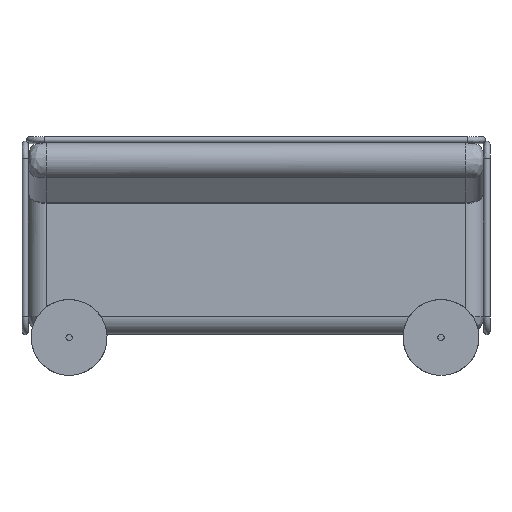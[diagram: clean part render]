
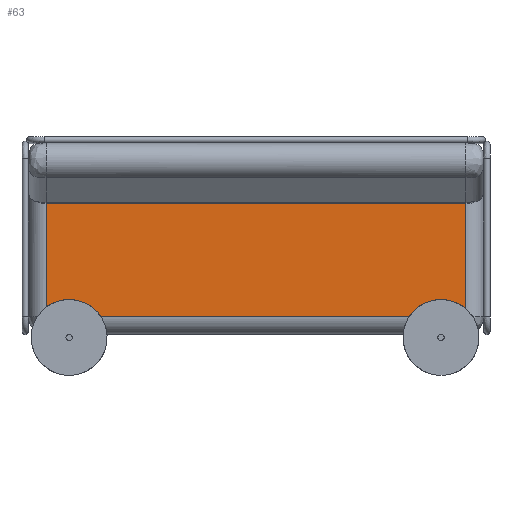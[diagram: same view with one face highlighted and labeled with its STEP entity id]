
A CAD part, top view. The second image highlights one B-rep face of the part: STEP entity #63.
In plain terms, the highlighted free-form (B-spline) face has degree [1, 1] with [2, 2] control points.
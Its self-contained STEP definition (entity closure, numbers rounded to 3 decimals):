
#63=ADVANCED_FACE('',(#161),#2688,.T.);
#161=FACE_OUTER_BOUND('',#259,.T.);
#259=EDGE_LOOP('',(#415,#416,#417,#418));
#415=ORIENTED_EDGE('',*,*,#2235,.T.);
#416=ORIENTED_EDGE('',*,*,#2236,.T.);
#417=ORIENTED_EDGE('',*,*,#2226,.F.);
#418=ORIENTED_EDGE('',*,*,#2237,.T.);
#796=B_SPLINE_CURVE_WITH_KNOTS('',1,(#4066,#4067),.UNSPECIFIED.,.F.,.F.,
(2,2),(0.,1.),.UNSPECIFIED.);
#797=B_SPLINE_CURVE_WITH_KNOTS('',1,(#4068,#4069),.UNSPECIFIED.,.F.,.F.,
(2,2),(0.,1.),.UNSPECIFIED.);
#814=B_SPLINE_CURVE_WITH_KNOTS('',1,(#4141,#4142),.UNSPECIFIED.,.F.,.F.,
(2,2),(0.,1.),.UNSPECIFIED.);
#815=B_SPLINE_CURVE_WITH_KNOTS('',1,(#4143,#4144),.UNSPECIFIED.,.F.,.F.,
(2,2),(0.,1.),.UNSPECIFIED.);
#816=B_SPLINE_CURVE_WITH_KNOTS('',1,(#4145,#4146),.UNSPECIFIED.,.F.,.F.,
(2,2),(0.,1.),.UNSPECIFIED.);
#817=B_SPLINE_CURVE_WITH_KNOTS('',1,(#4147,#4148),.UNSPECIFIED.,.F.,.F.,
(2,2),(0.,1.),.UNSPECIFIED.);
#818=B_SPLINE_CURVE_WITH_KNOTS('',1,(#4149,#4150),.UNSPECIFIED.,.F.,.F.,
(2,2),(0.,1.),.UNSPECIFIED.);
#819=B_SPLINE_CURVE_WITH_KNOTS('',1,(#4151,#4152),.UNSPECIFIED.,.F.,.F.,
(2,2),(-1.,0.),.UNSPECIFIED.);
#820=B_SPLINE_CURVE_WITH_KNOTS('',1,(#4153,#4154),.UNSPECIFIED.,.F.,.F.,
(2,2),(-1.,0.),.UNSPECIFIED.);
#825=B_SPLINE_CURVE_WITH_KNOTS('',1,(#4257,#4258),.UNSPECIFIED.,.F.,.F.,
(2,2),(0.,1.),.UNSPECIFIED.);
#855=B_SPLINE_CURVE_WITH_KNOTS('',1,(#4563,#4564),.UNSPECIFIED.,.F.,.F.,
(2,2),(-1.,0.),.UNSPECIFIED.);
#860=B_SPLINE_CURVE_WITH_KNOTS('',1,(#4631,#4632),.UNSPECIFIED.,.F.,.F.,
(2,2),(0.,1.),.UNSPECIFIED.);
#1275=PCURVE('',#2633,#1667);
#1288=PCURVE('',#2688,#1680);
#1289=PCURVE('',#2688,#1681);
#1290=PCURVE('',#2688,#1682);
#1291=PCURVE('',#2688,#1683);
#1295=PCURVE('',#2637,#1687);
#1317=PCURVE('',#2640,#1709);
#1321=PCURVE('',#2641,#1713);
#1667=DEFINITIONAL_REPRESENTATION('',(#797),#8630);
#1680=DEFINITIONAL_REPRESENTATION('',(#815),#8630);
#1681=DEFINITIONAL_REPRESENTATION('',(#817),#8630);
#1682=DEFINITIONAL_REPRESENTATION('',(#818),#8630);
#1683=DEFINITIONAL_REPRESENTATION('',(#820),#8630);
#1687=DEFINITIONAL_REPRESENTATION('',(#825),#8630);
#1709=DEFINITIONAL_REPRESENTATION('',(#855),#8630);
#1713=DEFINITIONAL_REPRESENTATION('',(#860),#8630);
#2030=SURFACE_CURVE('',#796,(#1275,#1290),.PCURVE_S1.);
#2039=SURFACE_CURVE('',#814,(#1288,#1321),.PCURVE_S1.);
#2040=SURFACE_CURVE('',#816,(#1289,#1295),.PCURVE_S1.);
#2041=SURFACE_CURVE('',#819,(#1291,#1317),.PCURVE_S1.);
#2226=EDGE_CURVE('',#2529,#2514,#2030,.T.);
#2235=EDGE_CURVE('',#2530,#2520,#2039,.T.);
#2236=EDGE_CURVE('',#2520,#2514,#2040,.T.);
#2237=EDGE_CURVE('',#2529,#2530,#2041,.T.);
#2514=VERTEX_POINT('',#3875);
#2520=VERTEX_POINT('',#3881);
#2529=VERTEX_POINT('',#3890);
#2530=VERTEX_POINT('',#3891);
#2633=(
BOUNDED_SURFACE()
B_SPLINE_SURFACE(3,1,((#3719,#3720),(#3721,#3722),(#3723,#3724),(#3725,
#3726)),.UNSPECIFIED.,.F.,.F.,.F.)
B_SPLINE_SURFACE_WITH_KNOTS((4,4),(2,2),(0.,1.),(0.,1.),.UNSPECIFIED.)
GEOMETRIC_REPRESENTATION_ITEM()
RATIONAL_B_SPLINE_SURFACE(((1.,1.),(0.805,0.805),
(0.805,0.805),(1.,1.)))
REPRESENTATION_ITEM('')
SURFACE()
);
#2637=(
BOUNDED_SURFACE()
B_SPLINE_SURFACE(3,1,((#3771,#3772),(#3773,#3774),(#3775,#3776),(#3777,
#3778)),.UNSPECIFIED.,.F.,.F.,.F.)
B_SPLINE_SURFACE_WITH_KNOTS((4,4),(2,2),(0.,1.),(0.,1.),.UNSPECIFIED.)
GEOMETRIC_REPRESENTATION_ITEM()
RATIONAL_B_SPLINE_SURFACE(((1.,1.),(0.805,0.805),
(0.805,0.805),(1.,1.)))
REPRESENTATION_ITEM('')
SURFACE()
);
#2640=(
BOUNDED_SURFACE()
B_SPLINE_SURFACE(3,1,((#3807,#3808),(#3809,#3810),(#3811,#3812),(#3813,
#3814)),.UNSPECIFIED.,.F.,.F.,.F.)
B_SPLINE_SURFACE_WITH_KNOTS((4,4),(2,2),(0.,1.),(0.,1.),.UNSPECIFIED.)
GEOMETRIC_REPRESENTATION_ITEM()
RATIONAL_B_SPLINE_SURFACE(((1.,1.),(0.805,0.805),
(0.805,0.805),(1.,1.)))
REPRESENTATION_ITEM('')
SURFACE()
);
#2641=(
BOUNDED_SURFACE()
B_SPLINE_SURFACE(3,1,((#3815,#3816),(#3817,#3818),(#3819,#3820),(#3821,
#3822)),.UNSPECIFIED.,.F.,.F.,.F.)
B_SPLINE_SURFACE_WITH_KNOTS((4,4),(2,2),(0.,1.),(0.,1.),.UNSPECIFIED.)
GEOMETRIC_REPRESENTATION_ITEM()
RATIONAL_B_SPLINE_SURFACE(((1.,1.),(0.805,0.805),
(0.805,0.805),(1.,1.)))
REPRESENTATION_ITEM('')
SURFACE()
);
#2688=B_SPLINE_SURFACE_WITH_KNOTS('',1,1,((#3767,#3768),(#3769,#3770)),
 .UNSPECIFIED.,.F.,.F.,.F.,(2,2),(2,2),(-830.,830.),(-287.5,
327.5),.UNSPECIFIED.);
#3719=CARTESIAN_POINT('',(830.,-287.5,470.));
#3720=CARTESIAN_POINT('',(830.,327.5,470.));
#3721=CARTESIAN_POINT('',(871.005,-287.5,470.));
#3722=CARTESIAN_POINT('',(871.005,327.5,470.));
#3723=CARTESIAN_POINT('',(900.,-287.5,441.005));
#3724=CARTESIAN_POINT('',(900.,327.5,441.005));
#3725=CARTESIAN_POINT('',(900.,-287.5,400.));
#3726=CARTESIAN_POINT('',(900.,327.5,400.));
#3767=CARTESIAN_POINT('',(-830.,-287.5,470.));
#3768=CARTESIAN_POINT('',(-830.,327.5,470.));
#3769=CARTESIAN_POINT('',(830.,-287.5,470.));
#3770=CARTESIAN_POINT('',(830.,327.5,470.));
#3771=CARTESIAN_POINT('',(830.,-357.5,400.));
#3772=CARTESIAN_POINT('',(-830.,-357.5,400.));
#3773=CARTESIAN_POINT('',(830.,-355.088,444.102));
#3774=CARTESIAN_POINT('',(-830.,-355.088,444.102));
#3775=CARTESIAN_POINT('',(830.,-331.602,467.588));
#3776=CARTESIAN_POINT('',(-830.,-331.602,467.588));
#3777=CARTESIAN_POINT('',(830.,-287.5,470.));
#3778=CARTESIAN_POINT('',(-830.,-287.5,470.));
#3807=CARTESIAN_POINT('',(830.,327.5,470.));
#3808=CARTESIAN_POINT('',(-830.,327.5,470.));
#3809=CARTESIAN_POINT('',(830.,371.602,467.588));
#3810=CARTESIAN_POINT('',(-830.,371.602,467.588));
#3811=CARTESIAN_POINT('',(830.,395.088,444.102));
#3812=CARTESIAN_POINT('',(-830.,395.088,444.102));
#3813=CARTESIAN_POINT('',(830.,397.5,400.));
#3814=CARTESIAN_POINT('',(-830.,397.5,400.));
#3815=CARTESIAN_POINT('',(-830.,327.5,470.));
#3816=CARTESIAN_POINT('',(-830.,-287.5,470.));
#3817=CARTESIAN_POINT('',(-871.005,327.5,470.));
#3818=CARTESIAN_POINT('',(-871.005,-287.5,470.));
#3819=CARTESIAN_POINT('',(-900.,327.5,441.005));
#3820=CARTESIAN_POINT('',(-900.,-287.5,441.005));
#3821=CARTESIAN_POINT('',(-900.,327.5,400.));
#3822=CARTESIAN_POINT('',(-900.,-287.5,400.));
#3875=CARTESIAN_POINT('',(830.,-287.5,470.));
#3881=CARTESIAN_POINT('',(-830.,-287.5,470.));
#3890=CARTESIAN_POINT('',(830.,327.5,470.));
#3891=CARTESIAN_POINT('',(-830.,327.5,470.));
#4066=CARTESIAN_POINT('',(830.,327.5,470.));
#4067=CARTESIAN_POINT('',(830.,-287.5,470.));
#4068=CARTESIAN_POINT('',(0.,1.));
#4069=CARTESIAN_POINT('',(0.,0.));
#4141=CARTESIAN_POINT('',(-830.,327.5,470.));
#4142=CARTESIAN_POINT('',(-830.,-287.5,470.));
#4143=CARTESIAN_POINT('',(-830.,327.5));
#4144=CARTESIAN_POINT('',(-830.,-287.5));
#4145=CARTESIAN_POINT('',(-830.,-287.5,470.));
#4146=CARTESIAN_POINT('',(830.,-287.5,470.));
#4147=CARTESIAN_POINT('',(-830.,-287.5));
#4148=CARTESIAN_POINT('',(830.,-287.5));
#4149=CARTESIAN_POINT('',(830.,327.5));
#4150=CARTESIAN_POINT('',(830.,-287.5));
#4151=CARTESIAN_POINT('',(830.,327.5,470.));
#4152=CARTESIAN_POINT('',(-830.,327.5,470.));
#4153=CARTESIAN_POINT('',(830.,327.5));
#4154=CARTESIAN_POINT('',(-830.,327.5));
#4257=CARTESIAN_POINT('',(1.,1.));
#4258=CARTESIAN_POINT('',(1.,0.));
#4563=CARTESIAN_POINT('',(0.,0.));
#4564=CARTESIAN_POINT('',(0.,1.));
#4631=CARTESIAN_POINT('',(0.,0.));
#4632=CARTESIAN_POINT('',(0.,1.));
#8630=(
GEOMETRIC_REPRESENTATION_CONTEXT(2)
PARAMETRIC_REPRESENTATION_CONTEXT()
REPRESENTATION_CONTEXT('pspace','')
);
